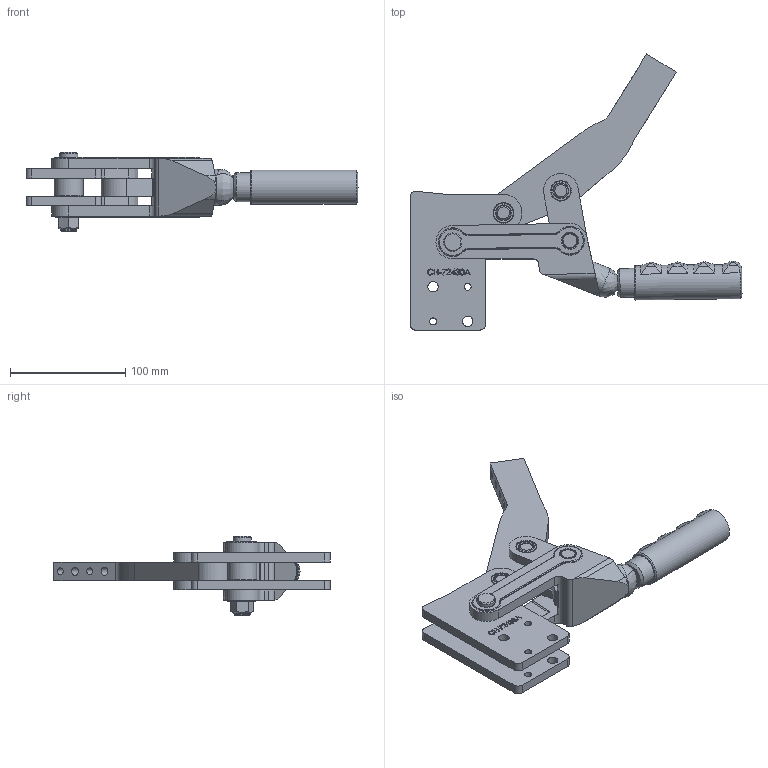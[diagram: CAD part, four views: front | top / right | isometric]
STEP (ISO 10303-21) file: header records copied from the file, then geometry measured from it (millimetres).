
FILE_DESCRIPTION(/* description */ ('STEP AP203'),/* implementation_level */ '2;1');
FILE_NAME(/* name */ 'E:\CAD_CLAMPS\Heavy duty weldables\CH-72430A_DODAC\CH-72430A_OTWARTY.stp',/* time_stamp */ '2019-03-11T14:21:44+01:00',/* author */ ('Admin'),/* organization */ ('Î¢ÈíÖÐ¹ú'),/* preprocessor_version */ 'ST-DEVELOPER v17.2',/* originating_system */ 'Autodesk Inventor 2019',/* authorisation */ '');
FILE_SCHEMA (('AUTOMOTIVE_DESIGN { 1 0 10303 214 3 1 1 }'));
Products named in the file (12): CH-72430A_OTWARTY; 72425-11; 72425-09; M12; 72425-10; 72425-08; 72425-03; 72425-04; 72425-06; CH-72430A-02; CH-72430A-01; 72425-07
Assembly tree (20 placements, depth 2):
  CH-72430A_OTWARTY
    72425-11
    72425-06  x8
    72425-03  x2
    72425-09
    M12
    72425-10
    72425-08  x2
    72425-04
    CH-72430A-02
    CH-72430A-01
    72425-07
Bounding box: 287.68 x 239.29 x 68.5 mm (x, y, z)
Volume: 515390 mm3; surface area: 161895.7 mm2
Topology: 21 solids, 21 shells, 4751 faces, 13614 edges, 9102 vertices
Faces by surface type: plane 2772, cylinder 1818, bspline 56, cone 54, torus 51
Full cylindrical faces by diameter (mm): 6 x6, 7 x2, 9 x4, 10.5 x5, 11.5 x1, 12.5 x4, 13 x15, 13.2 x1, 13.8 x1, 16 x1, 18 x8, 24.6 x1, 25 x2, 29.8 x1
Entity records: 72791 total; most frequent: CARTESIAN_POINT 22546, DIRECTION 10552, ORIENTED_EDGE 10504, EDGE_CURVE 5252, AXIS2_PLACEMENT_3D 3640, VERTEX_POINT 3516, LINE 3272, VECTOR 3272
